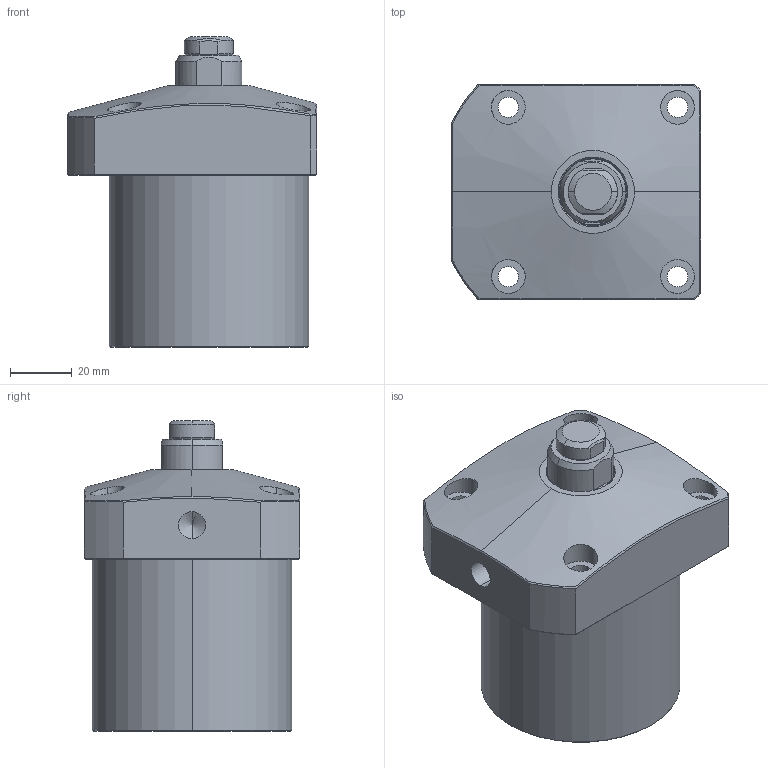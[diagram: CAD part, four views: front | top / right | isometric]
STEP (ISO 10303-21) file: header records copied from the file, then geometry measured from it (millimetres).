
FILE_DESCRIPTION (( 'STEP AP214' ), '1' );
FILE_NAME ('FW10-0654.STEP', '2020-08-07T04:13:38', ( '' ), ( '' ), 'SwSTEP 2.0', 'SolidWorks 2019', '' );
FILE_SCHEMA (( 'AUTOMOTIVE_DESIGN' ));
Length unit declared in the file: millimetre
Products named in the file (4): 654-PLUNGER; 654-PAD; FW10-0654; FW10-0654-BODY
Assembly tree (3 placements, depth 2):
  FW10-0654
    FW10-0654-BODY
    654-PLUNGER
    654-PAD
Bounding box: 81 x 70 x 101 mm (x, y, z)
Volume: 319590.9 mm3; surface area: 39484.9 mm2
Topology: 3 solids, 3 shells, 118 faces, 272 edges, 168 vertices
Faces by surface type: cylinder 41, plane 36, cone 33, bspline 8
Entity records: 5381 total; most frequent: CARTESIAN_POINT 2551, DIRECTION 546, ORIENTED_EDGE 536, EDGE_CURVE 268, AXIS2_PLACEMENT_3D 222, VERTEX_POINT 168, EDGE_LOOP 138, ADVANCED_FACE 118
